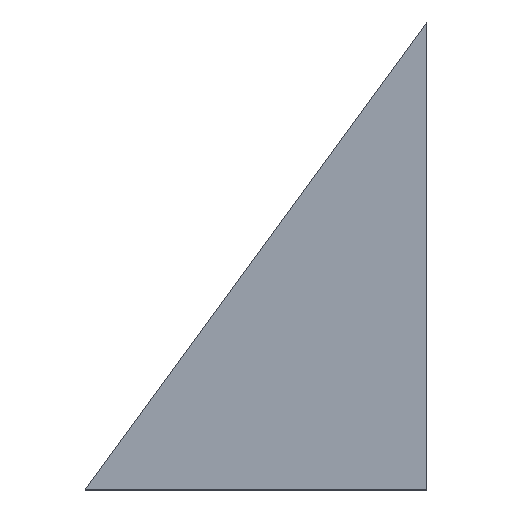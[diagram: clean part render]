
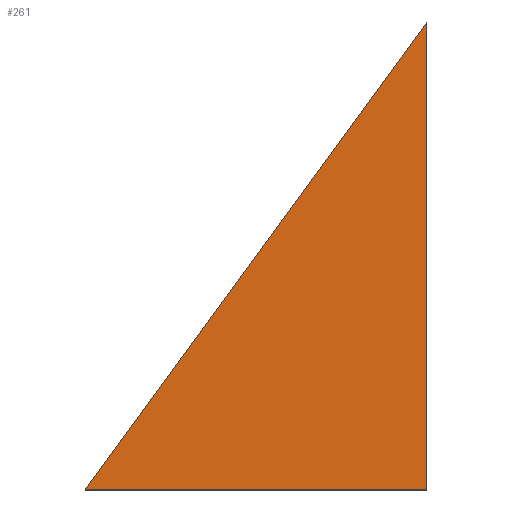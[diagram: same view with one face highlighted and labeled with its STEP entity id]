
A CAD part, top view. The second image highlights one B-rep face of the part: STEP entity #261.
In plain terms, the highlighted planar face has unit normal (0, 0, 1).
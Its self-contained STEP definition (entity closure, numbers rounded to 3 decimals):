
#24 = VERTEX_POINT('',#25);
#25 = CARTESIAN_POINT('',(-31.,0.,16.));
#32 = PLANE('',#33);
#33 = AXIS2_PLACEMENT_3D('',#34,#35,#36);
#34 = CARTESIAN_POINT('',(-31.,0.,0.));
#35 = DIRECTION('',(-0.,1.,-0.));
#36 = DIRECTION('',(1.,0.,0.));
#44 = PLANE('',#45);
#45 = AXIS2_PLACEMENT_3D('',#46,#47,#48);
#46 = CARTESIAN_POINT('',(-31.,204.,0.));
#47 = DIRECTION('',(-1.,-0.,-0.));
#48 = DIRECTION('',(0.,1.,0.));
#56 = EDGE_CURVE('',#24,#57,#59,.T.);
#57 = VERTEX_POINT('',#58);
#58 = CARTESIAN_POINT('',(-180.,0.,16.));
#59 = SURFACE_CURVE('',#60,(#64,#71),.PCURVE_S1.);
#60 = LINE('',#61,#62);
#61 = CARTESIAN_POINT('',(-31.,0.,16.));
#62 = VECTOR('',#63,1.);
#63 = DIRECTION('',(-1.,-0.,-0.));
#64 = PCURVE('',#32,#65);
#65 = DEFINITIONAL_REPRESENTATION('',(#66),#70);
#66 = LINE('',#67,#68);
#67 = CARTESIAN_POINT('',(-0.,-16.));
#68 = VECTOR('',#69,1.);
#69 = DIRECTION('',(-1.,0.));
#70 = ( GEOMETRIC_REPRESENTATION_CONTEXT(2) 
PARAMETRIC_REPRESENTATION_CONTEXT() REPRESENTATION_CONTEXT('2D SPACE',''
  ) );
#71 = PCURVE('',#72,#77);
#72 = PLANE('',#73);
#73 = AXIS2_PLACEMENT_3D('',#74,#75,#76);
#74 = CARTESIAN_POINT('',(-80.405,76.905,16.));
#75 = DIRECTION('',(-0.,-0.,1.));
#76 = DIRECTION('',(1.,0.,0.));
#77 = DEFINITIONAL_REPRESENTATION('',(#78),#82);
#78 = LINE('',#79,#80);
#79 = CARTESIAN_POINT('',(49.405,-76.905));
#80 = VECTOR('',#81,1.);
#81 = DIRECTION('',(-1.,0.));
#82 = ( GEOMETRIC_REPRESENTATION_CONTEXT(2) 
PARAMETRIC_REPRESENTATION_CONTEXT() REPRESENTATION_CONTEXT('2D SPACE',''
  ) );
#100 = PLANE('',#101);
#101 = AXIS2_PLACEMENT_3D('',#102,#103,#104);
#102 = CARTESIAN_POINT('',(-180.,0.,0.));
#103 = DIRECTION('',(0.808,-0.59,0.));
#104 = DIRECTION('',(-0.59,-0.808,0.));
#142 = EDGE_CURVE('',#57,#143,#145,.T.);
#143 = VERTEX_POINT('',#144);
#144 = CARTESIAN_POINT('',(-31.,204.,16.));
#145 = SURFACE_CURVE('',#146,(#150,#157),.PCURVE_S1.);
#146 = LINE('',#147,#148);
#147 = CARTESIAN_POINT('',(-180.,0.,16.));
#148 = VECTOR('',#149,1.);
#149 = DIRECTION('',(0.59,0.808,-0.));
#150 = PCURVE('',#100,#151);
#151 = DEFINITIONAL_REPRESENTATION('',(#152),#156);
#152 = LINE('',#153,#154);
#153 = CARTESIAN_POINT('',(-0.,-16.));
#154 = VECTOR('',#155,1.);
#155 = DIRECTION('',(-1.,0.));
#156 = ( GEOMETRIC_REPRESENTATION_CONTEXT(2) 
PARAMETRIC_REPRESENTATION_CONTEXT() REPRESENTATION_CONTEXT('2D SPACE',''
  ) );
#157 = PCURVE('',#72,#158);
#158 = DEFINITIONAL_REPRESENTATION('',(#159),#163);
#159 = LINE('',#160,#161);
#160 = CARTESIAN_POINT('',(-99.595,-76.905));
#161 = VECTOR('',#162,1.);
#162 = DIRECTION('',(0.59,0.808));
#163 = ( GEOMETRIC_REPRESENTATION_CONTEXT(2) 
PARAMETRIC_REPRESENTATION_CONTEXT() REPRESENTATION_CONTEXT('2D SPACE',''
  ) );
#213 = EDGE_CURVE('',#143,#24,#214,.T.);
#214 = SURFACE_CURVE('',#215,(#219,#226),.PCURVE_S1.);
#215 = LINE('',#216,#217);
#216 = CARTESIAN_POINT('',(-31.,204.,16.));
#217 = VECTOR('',#218,1.);
#218 = DIRECTION('',(-0.,-1.,-0.));
#219 = PCURVE('',#44,#220);
#220 = DEFINITIONAL_REPRESENTATION('',(#221),#225);
#221 = LINE('',#222,#223);
#222 = CARTESIAN_POINT('',(-0.,-16.));
#223 = VECTOR('',#224,1.);
#224 = DIRECTION('',(-1.,0.));
#225 = ( GEOMETRIC_REPRESENTATION_CONTEXT(2) 
PARAMETRIC_REPRESENTATION_CONTEXT() REPRESENTATION_CONTEXT('2D SPACE',''
  ) );
#226 = PCURVE('',#72,#227);
#227 = DEFINITIONAL_REPRESENTATION('',(#228),#232);
#228 = LINE('',#229,#230);
#229 = CARTESIAN_POINT('',(49.405,127.095));
#230 = VECTOR('',#231,1.);
#231 = DIRECTION('',(-0.,-1.));
#232 = ( GEOMETRIC_REPRESENTATION_CONTEXT(2) 
PARAMETRIC_REPRESENTATION_CONTEXT() REPRESENTATION_CONTEXT('2D SPACE',''
  ) );
#261 = ADVANCED_FACE('',(#262),#72,.T.);
#262 = FACE_BOUND('',#263,.F.);
#263 = EDGE_LOOP('',(#264,#265,#266));
#264 = ORIENTED_EDGE('',*,*,#56,.T.);
#265 = ORIENTED_EDGE('',*,*,#142,.T.);
#266 = ORIENTED_EDGE('',*,*,#213,.T.);
